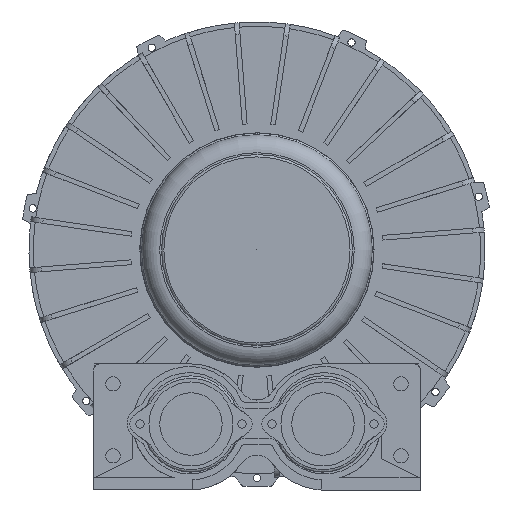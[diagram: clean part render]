
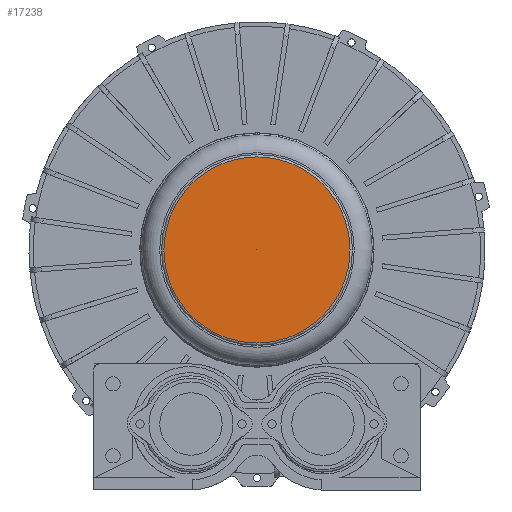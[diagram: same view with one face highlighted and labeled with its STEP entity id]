
A CAD part, front view. The second image highlights one B-rep face of the part: STEP entity #17238.
In plain terms, the highlighted conical face has half-angle 89.996 degrees and reference radius 77.577 mm.
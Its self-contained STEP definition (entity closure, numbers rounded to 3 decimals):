
#294=VERTEX_LOOP('',#13103);
#295=CONICAL_SURFACE('',#18203,77.577,1.571);
#4057=CIRCLE('',#18204,77.577);
#4983=ORIENTED_EDGE('',*,*,#10398,.T.);
#10398=EDGE_CURVE('',#13104,#13104,#4057,.T.);
#13103=VERTEX_POINT('',#25344);
#13104=VERTEX_POINT('',#25346);
#15141=EDGE_LOOP('',(#4983));
#16157=FACE_BOUND('',#294,.T.);
#16158=FACE_BOUND('',#15141,.T.);
#17238=ADVANCED_FACE('',(#16157,#16158),#295,.F.);
#18203=AXIS2_PLACEMENT_3D('',#25343,#20083,#20084);
#18204=AXIS2_PLACEMENT_3D('',#25345,#20085,#20086);
#20083=DIRECTION('',(0.,-1.,0.));
#20084=DIRECTION('',(1.,0.,0.));
#20085=DIRECTION('',(0.,-1.,0.));
#20086=DIRECTION('',(1.,0.,0.));
#25343=CARTESIAN_POINT('',(0.,-400.006,0.));
#25344=CARTESIAN_POINT('',(0.,-400.,0.));
#25345=CARTESIAN_POINT('',(0.,-400.006,0.));
#25346=CARTESIAN_POINT('',(77.577,-400.006,0.));
